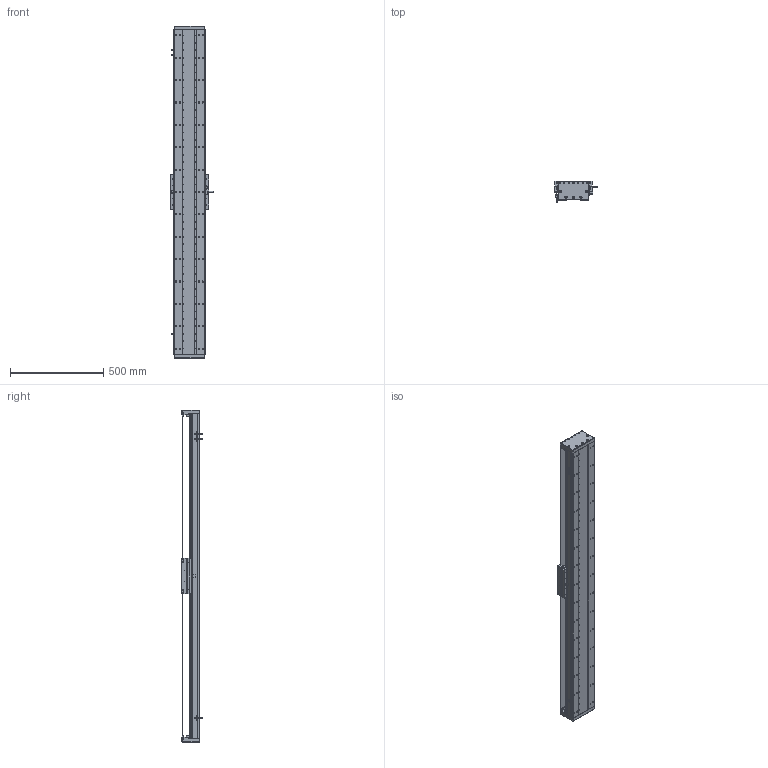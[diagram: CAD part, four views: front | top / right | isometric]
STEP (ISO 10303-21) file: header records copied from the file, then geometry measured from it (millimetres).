
FILE_DESCRIPTION (( 'STEP AP203' ), '1' );
FILE_NAME ('DA-C165-C2-T1500-C010-0.2 直线电机.STEP', '2023-05-11T07:40:39', ( '微软用户' ), ( '微软中国' ), 'SwSTEP 2.0', 'SolidWorks 2019', '' );
FILE_SCHEMA (( 'CONFIG_CONTROL_DESIGN' ));
Length unit declared in the file: millimetre
Products named in the file (18): IU-CU165-L 菁釱絳寢; 复件 DA95-HXJ-00 缓冲橡胶^DA-C165-C2-T-C010-0.2-N 直线电机; IU-CU165-L-00 菁釱_L1740; 复件 DA165-GD-1860-002-00 钢带盖板^复件 CU165钢带组件_DA-C165-C2-T-C010-0.2-N 直线电机; 葩璃 PM-T45^DA-C165-C2-T-C010-0.2-N 眻盄萇儂; 复件 DA165-GDLK-00 钢带拉块^复件 CU165钢带组件_DA-C165-C2-T-C010-0.2-N 直线电机; 复件 六角薄螺母 M3^DA-C165-C2-T-C010-0.2-N 直线电机_GB_FASTENER_NUT_STNAB M3-C; 葩璃 CKM01-W075-TRL^DA-C165-C2-T-C010-0.2-N 眻盄萇儂; 珨极趙賑雄怢啣wf-C2; 复件 CU165钢带组件^DA-C165-C2-T-C010-0.2-N 直线电机; DA-C165-C2-T1500-C010-0.2 眻盄萇儂; 复件 DA165-GD-DG-H-00 端盖^复件 CU165钢带组件_DA-C165-C2-T-C010-0.2-N 直线电机; 复件 DA165-GYP-00 光电感应片^DA-C165-C2-T-C010-0.2-N 直线电机; 复件 DMA-010-0.2 读数头^DA-C165-C2-T-C010-0.2-N 直线电机; 复件 DA165-GDYK-00 钢带压块^复件 CU165钢带组件_DA-C165-C2-T-C010-0.2-N 直线电机; 复件 CKM02-W075-C1C2-TP-3.0 一体电机-C2^DA-C165-C2-T-C010-0.2-N 直线电机; 复件 XD-U-02L 磁栅尺^DA-C165-C2-T-C010-0.2-N 直线电机_T; 葩璃 DA95-GT-T-00^IU-CU165-L 菁釱絳寢_T
Assembly tree (33 placements, depth 3):
  DA-C165-C2-T1500-C010-0.2 眻盄萇儂
    IU-CU165-L 菁釱絳寢
      IU-CU165-L-00 菁釱_L1740
      葩璃 DA95-GT-T-00^IU-CU165-L 菁釱絳寢_T  x4
    复件 XD-U-02L 磁栅尺^DA-C165-C2-T-C010-0.2-N 直线电机_T
    葩璃 PM-T45^DA-C165-C2-T-C010-0.2-N 眻盄萇儂  x3
    葩璃 CKM01-W075-TRL^DA-C165-C2-T-C010-0.2-N 眻盄萇儂
    复件 CU165钢带组件^DA-C165-C2-T-C010-0.2-N 直线电机
      复件 DA165-GD-DG-H-00 端盖^复件 CU165钢带组件_DA-C165-C2-T-C010-0.2-N 直线电机  x2
      复件 DA165-GDYK-00 钢带压块^复件 CU165钢带组件_DA-C165-C2-T-C010-0.2-N 直线电机  x2
      复件 DA165-GD-1860-002-00 钢带盖板^复件 CU165钢带组件_DA-C165-C2-T-C010-0.2-N 直线电机
      复件 DA165-GDLK-00 钢带拉块^复件 CU165钢带组件_DA-C165-C2-T-C010-0.2-N 直线电机  x2
    复件 DA95-HXJ-00 缓冲橡胶^DA-C165-C2-T-C010-0.2-N 直线电机  x4
    复件 DA165-GYP-00 光电感应片^DA-C165-C2-T-C010-0.2-N 直线电机
    复件 DMA-010-0.2 读数头^DA-C165-C2-T-C010-0.2-N 直线电机
    复件 CKM02-W075-C1C2-TP-3.0 一体电机-C2^DA-C165-C2-T-C010-0.2-N 直线电机
    复件 六角薄螺母 M3^DA-C165-C2-T-C010-0.2-N 直线电机_GB_FASTENER_NUT_STNAB M3-C  x6
    珨极趙賑雄怢啣wf-C2
Bounding box: 233 x 111.45 x 1780 mm (x, y, z)
Volume: 10557137.7 mm3; surface area: 3093979.3 mm2
Topology: 70 solids, 70 shells, 3471 faces, 9863 edges, 6251 vertices
Faces by surface type: cylinder 1917, plane 1074, cone 430, torus 46, sphere 4
Entity records: 110473 total; most frequent: CARTESIAN_POINT 28133, ORIENTED_EDGE 16898, DIRECTION 16697, EDGE_CURVE 8449, AXIS2_PLACEMENT_3D 6339, VERTEX_POINT 5487, LINE 4019, VECTOR 4019
